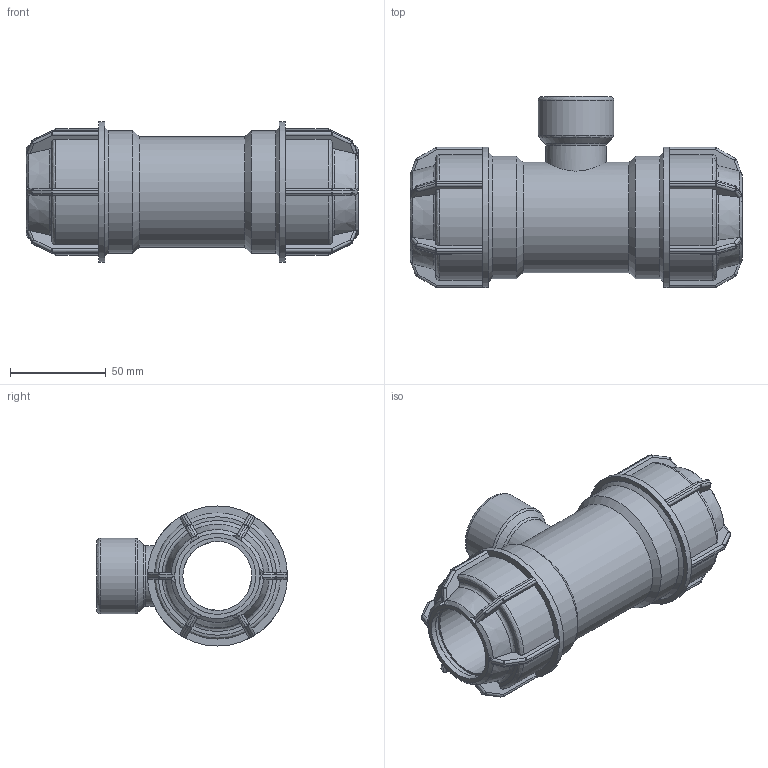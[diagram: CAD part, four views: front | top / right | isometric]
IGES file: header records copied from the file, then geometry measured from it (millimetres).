
Global section: file name: 141400040010.ipt; native system: Autodesk Inventor 2015; preprocessor: unknown; author: KIM; date: 20180416.111609; units: millimetre
Bounding box: 173 x 99.5 x 73 mm (x, y, z)
Volume: 316290.3 mm3; surface area: 72551.8 mm2
Topology: 1 solids, 1 shells, 412 faces, 990 edges, 580 vertices
Faces by surface type: plane 194, cylinder 115, sphere 48, revolution 38, cone 17
Full cylindrical faces by diameter (mm): 31.503 x1, 39.378 x1, 57.6 x1, 64 x2, 73 x2
